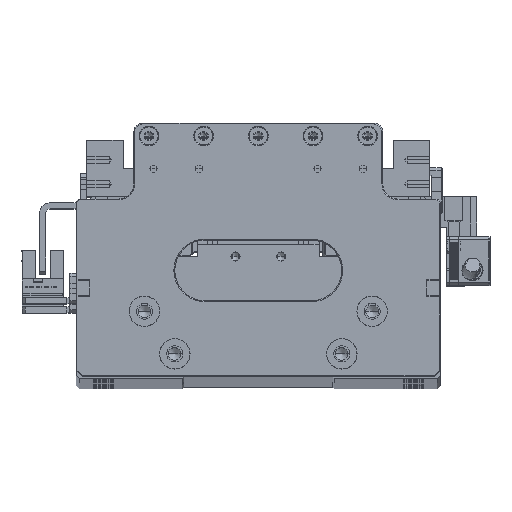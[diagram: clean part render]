
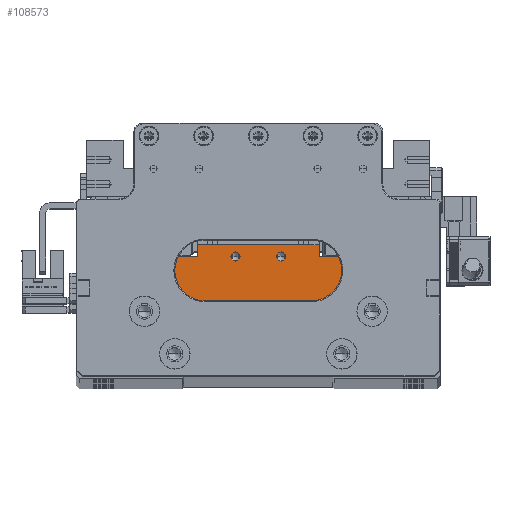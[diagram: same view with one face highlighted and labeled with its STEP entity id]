
A CAD part, top view. The second image highlights one B-rep face of the part: STEP entity #108573.
In plain terms, the highlighted planar face has unit normal (0, 0, 1).
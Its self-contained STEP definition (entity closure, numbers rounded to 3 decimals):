
#712 = VERTEX_POINT ( 'NONE', #131705 ) ;
#829 = VECTOR ( 'NONE', #117153, 1000. ) ;
#1107 = DIRECTION ( 'NONE',  ( 1., 0., 0. ) ) ;
#1222 = CIRCLE ( 'NONE', #62359, 1.525 ) ;
#1687 = AXIS2_PLACEMENT_3D ( 'NONE', #128035, #64421, #1107 ) ;
#1704 = ORIENTED_EDGE ( 'NONE', *, *, #74824, .F. ) ;
#2111 = LINE ( 'NONE', #97206, #58360 ) ;
#2653 = VECTOR ( 'NONE', #113648, 1000. ) ;
#5404 = CIRCLE ( 'NONE', #39219, 1.525 ) ;
#6012 = LINE ( 'NONE', #50233, #2653 ) ;
#7693 = CARTESIAN_POINT ( 'NONE',  ( -102.625, 78.98, 462.722 ) ) ;
#7820 = EDGE_LOOP ( 'NONE', ( #31191, #54356 ) ) ;
#8161 = FACE_BOUND ( 'NONE', #22083, .T. ) ;
#11168 = CARTESIAN_POINT ( 'NONE',  ( -102.625, 71.48, 462.722 ) ) ;
#11525 = VERTEX_POINT ( 'NONE', #60363 ) ;
#12147 = LINE ( 'NONE', #27479, #93227 ) ;
#13817 = CIRCLE ( 'NONE', #44844, 1.525 ) ;
#15709 = ORIENTED_EDGE ( 'NONE', *, *, #44298, .F. ) ;
#17191 = CARTESIAN_POINT ( 'NONE',  ( -102.625, 82.98, 462.722 ) ) ;
#17576 = DIRECTION ( 'NONE',  ( 0., 0., 1. ) ) ;
#18705 = DIRECTION ( 'NONE',  ( -1., 0., 0. ) ) ;
#21155 = EDGE_CURVE ( 'NONE', #42248, #123713, #42330, .T. ) ;
#21633 = DIRECTION ( 'NONE',  ( 1., 0., 0. ) ) ;
#22083 = EDGE_LOOP ( 'NONE', ( #118802, #52392 ) ) ;
#25596 = CARTESIAN_POINT ( 'NONE',  ( -75.125, 79.08, 462.722 ) ) ;
#26527 = CARTESIAN_POINT ( 'NONE',  ( -112.525, 59.78, 462.722 ) ) ;
#27479 = CARTESIAN_POINT ( 'NONE',  ( -90.125, 59.78, 462.722 ) ) ;
#31137 = EDGE_CURVE ( 'NONE', #62892, #35503, #85230, .T. ) ;
#31191 = ORIENTED_EDGE ( 'NONE', *, *, #109778, .F. ) ;
#32507 = EDGE_CURVE ( 'NONE', #42248, #96173, #12147, .T. ) ;
#35503 = VERTEX_POINT ( 'NONE', #17191 ) ;
#36172 = DIRECTION ( 'NONE',  ( 1., 0., 0. ) ) ;
#38481 = VECTOR ( 'NONE', #135593, 1000. ) ;
#39219 = AXIS2_PLACEMENT_3D ( 'NONE', #80851, #17576, #91503 ) ;
#39455 = CARTESIAN_POINT ( 'NONE',  ( -90.125, 71.48, 462.722 ) ) ;
#40076 = EDGE_CURVE ( 'NONE', #712, #61071, #2111, .T. ) ;
#40485 = ORIENTED_EDGE ( 'NONE', *, *, #131117, .F. ) ;
#41539 = CARTESIAN_POINT ( 'NONE',  ( -52.725, 78.98, 462.722 ) ) ;
#41566 = CARTESIAN_POINT ( 'NONE',  ( -52.725, 59.78, 462.722 ) ) ;
#42248 = VERTEX_POINT ( 'NONE', #26527 ) ;
#42330 = LINE ( 'NONE', #105366, #120158 ) ;
#43139 = ORIENTED_EDGE ( 'NONE', *, *, #31137, .F. ) ;
#44298 = EDGE_CURVE ( 'NONE', #61071, #96173, #6012, .T. ) ;
#44844 = AXIS2_PLACEMENT_3D ( 'NONE', #51391, #125530, #61957 ) ;
#46462 = CARTESIAN_POINT ( 'NONE',  ( -73.6, 79.08, 462.722 ) ) ;
#47269 = ORIENTED_EDGE ( 'NONE', *, *, #32507, .T. ) ;
#49222 = CIRCLE ( 'NONE', #1687, 1.525 ) ;
#50233 = CARTESIAN_POINT ( 'NONE',  ( -52.725, 71.48, 462.722 ) ) ;
#51361 = CARTESIAN_POINT ( 'NONE',  ( -112.525, 78.98, 462.722 ) ) ;
#51391 = CARTESIAN_POINT ( 'NONE',  ( -75.125, 79.08, 462.722 ) ) ;
#52392 = ORIENTED_EDGE ( 'NONE', *, *, #116969, .F. ) ;
#54356 = ORIENTED_EDGE ( 'NONE', *, *, #85924, .F. ) ;
#56044 = CARTESIAN_POINT ( 'NONE',  ( -91.65, 79.08, 462.722 ) ) ;
#58360 = VECTOR ( 'NONE', #128406, 1000. ) ;
#58367 = EDGE_CURVE ( 'NONE', #124513, #712, #63167, .T. ) ;
#60363 = CARTESIAN_POINT ( 'NONE',  ( -76.65, 79.08, 462.722 ) ) ;
#61071 = VERTEX_POINT ( 'NONE', #41539 ) ;
#61331 = VERTEX_POINT ( 'NONE', #56044 ) ;
#61735 = CARTESIAN_POINT ( 'NONE',  ( -62.625, 71.48, 462.722 ) ) ;
#61957 = DIRECTION ( 'NONE',  ( 1., 0., 0. ) ) ;
#62359 = AXIS2_PLACEMENT_3D ( 'NONE', #25596, #99571, #36172 ) ;
#62892 = VERTEX_POINT ( 'NONE', #7693 ) ;
#63167 = LINE ( 'NONE', #61735, #38481 ) ;
#64327 = FACE_OUTER_BOUND ( 'NONE', #120458, .T. ) ;
#64421 = DIRECTION ( 'NONE',  ( 0., 0., 1. ) ) ;
#69410 = VECTOR ( 'NONE', #21633, 1000. ) ;
#71320 = PLANE ( 'NONE',  #108465 ) ;
#71872 = VECTOR ( 'NONE', #100691, 1000. ) ;
#74824 = EDGE_CURVE ( 'NONE', #35503, #124513, #121962, .T. ) ;
#80851 = CARTESIAN_POINT ( 'NONE',  ( -90.125, 79.08, 462.722 ) ) ;
#80984 = ORIENTED_EDGE ( 'NONE', *, *, #58367, .F. ) ;
#81973 = DIRECTION ( 'NONE',  ( 0., 0., -1. ) ) ;
#85230 = LINE ( 'NONE', #11168, #829 ) ;
#85924 = EDGE_CURVE ( 'NONE', #11525, #132415, #13817, .T. ) ;
#90040 = CARTESIAN_POINT ( 'NONE',  ( -90.125, 82.98, 462.722 ) ) ;
#91503 = DIRECTION ( 'NONE',  ( 1., 0., 0. ) ) ;
#92558 = FACE_BOUND ( 'NONE', #7820, .T. ) ;
#93227 = VECTOR ( 'NONE', #101923, 1000. ) ;
#94606 = CARTESIAN_POINT ( 'NONE',  ( -88.6, 79.08, 462.722 ) ) ;
#96173 = VERTEX_POINT ( 'NONE', #41566 ) ;
#97206 = CARTESIAN_POINT ( 'NONE',  ( -90.125, 78.98, 462.722 ) ) ;
#99571 = DIRECTION ( 'NONE',  ( 0., 0., 1. ) ) ;
#100691 = DIRECTION ( 'NONE',  ( 1., 0., 0. ) ) ;
#101672 = CARTESIAN_POINT ( 'NONE',  ( -62.625, 82.98, 462.722 ) ) ;
#101923 = DIRECTION ( 'NONE',  ( 1., 0., 0. ) ) ;
#104260 = LINE ( 'NONE', #116917, #69410 ) ;
#105366 = CARTESIAN_POINT ( 'NONE',  ( -112.525, 71.48, 462.722 ) ) ;
#107373 = VERTEX_POINT ( 'NONE', #94606 ) ;
#108465 = AXIS2_PLACEMENT_3D ( 'NONE', #39455, #81973, #18705 ) ;
#108573 = ADVANCED_FACE ( 'NONE', ( #64327, #92558, #8161 ), #71320, .F. ) ;
#109033 = ORIENTED_EDGE ( 'NONE', *, *, #40076, .F. ) ;
#109778 = EDGE_CURVE ( 'NONE', #132415, #11525, #1222, .T. ) ;
#113648 = DIRECTION ( 'NONE',  ( 0., -1., 0. ) ) ;
#113692 = EDGE_CURVE ( 'NONE', #107373, #61331, #49222, .T. ) ;
#115672 = ORIENTED_EDGE ( 'NONE', *, *, #21155, .F. ) ;
#116917 = CARTESIAN_POINT ( 'NONE',  ( -90.125, 78.98, 462.722 ) ) ;
#116969 = EDGE_CURVE ( 'NONE', #61331, #107373, #5404, .T. ) ;
#117153 = DIRECTION ( 'NONE',  ( 0., 1., 0. ) ) ;
#118802 = ORIENTED_EDGE ( 'NONE', *, *, #113692, .F. ) ;
#120158 = VECTOR ( 'NONE', #137043, 1000. ) ;
#120458 = EDGE_LOOP ( 'NONE', ( #40485, #115672, #47269, #15709, #109033, #80984, #1704, #43139 ) ) ;
#121962 = LINE ( 'NONE', #90040, #71872 ) ;
#123713 = VERTEX_POINT ( 'NONE', #51361 ) ;
#124513 = VERTEX_POINT ( 'NONE', #101672 ) ;
#125530 = DIRECTION ( 'NONE',  ( 0., 0., 1. ) ) ;
#128035 = CARTESIAN_POINT ( 'NONE',  ( -90.125, 79.08, 462.722 ) ) ;
#128406 = DIRECTION ( 'NONE',  ( 1., 0., 0. ) ) ;
#131117 = EDGE_CURVE ( 'NONE', #123713, #62892, #104260, .T. ) ;
#131705 = CARTESIAN_POINT ( 'NONE',  ( -62.625, 78.98, 462.722 ) ) ;
#132415 = VERTEX_POINT ( 'NONE', #46462 ) ;
#135593 = DIRECTION ( 'NONE',  ( 0., -1., 0. ) ) ;
#137043 = DIRECTION ( 'NONE',  ( 0., 1., 0. ) ) ;
